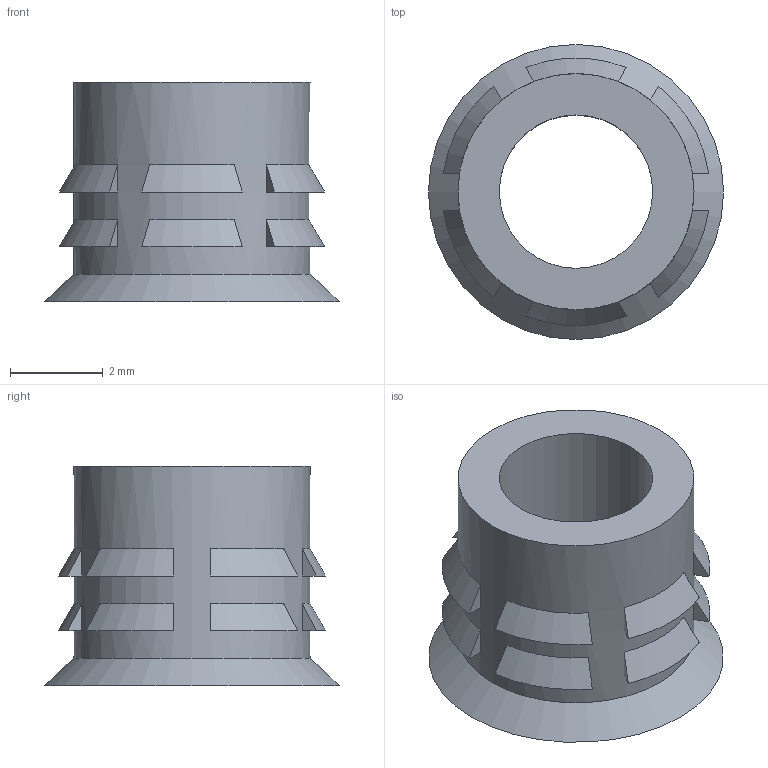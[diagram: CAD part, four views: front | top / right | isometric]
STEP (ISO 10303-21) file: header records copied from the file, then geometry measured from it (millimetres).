
FILE_DESCRIPTION (( 'STEP AP214' ), '1' );
FILE_NAME ('insert M4 S1.STEP', '2017-08-09T11:17:44', ( '微软用户' ), ( '微软中国' ), 'SwSTEP 2.0', 'SolidWorks 2015', '' );
FILE_SCHEMA (( 'AUTOMOTIVE_DESIGN' ));
Length unit declared in the file: millimetre
Products named in the file (1): insert M4 S1
Bounding box: 6.35 x 6.35 x 4.72 mm (x, y, z)
Volume: 60.4 mm3; surface area: 177.7 mm2
Topology: 1 solids, 1 shells, 54 faces, 118 edges, 78 vertices
Faces by surface type: plane 38, torus 13, cylinder 2, cone 1
Full cylindrical faces by diameter (mm): 3.3 x1, 5.08 x1
Entity records: 1546 total; most frequent: CARTESIAN_POINT 335, DIRECTION 242, ORIENTED_EDGE 228, EDGE_CURVE 114, AXIS2_PLACEMENT_3D 97, VERTEX_POINT 78, EDGE_LOOP 72, FACE_OUTER_BOUND 57
